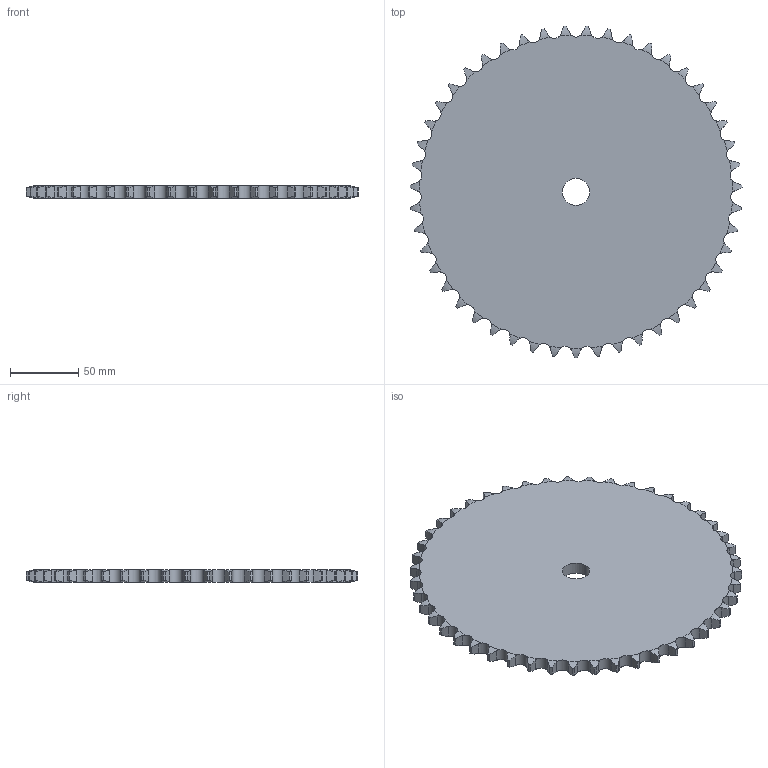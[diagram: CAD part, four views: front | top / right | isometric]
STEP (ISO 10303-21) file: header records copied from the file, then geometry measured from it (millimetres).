
FILE_DESCRIPTION((''),'2;1');
FILE_NAME('500-301-0047_PRT','2021-02-12T',('Brieden'),('Brieden'),'PRO/ENGINEER BY PARAMETRIC TECHNOLOGY CORPORATION, 2010160','PRO/ENGINEER BY PARAMETRIC TECHNOLOGY CORPORATION, 2010160','');
FILE_SCHEMA(('AUTOMOTIVE_DESIGN { 1 0 10303 214 1 1 1 1 }'));
Length unit declared in the file: millimetre
Products named in the file (1): 500-301-0047_PRT
Bounding box: 243.84 x 243.71 x 9.1 mm (x, y, z)
Volume: 386164.6 mm3; surface area: 95358.9 mm2
Topology: 1 solids, 1 shells, 286 faces, 852 edges, 568 vertices
Faces by surface type: cylinder 190, torus 94, plane 2
Entity records: 14099 total; most frequent: CARTESIAN_POINT 4248, ORIENTED_EDGE 1704, DIRECTION 1334, PRESENTATION_STYLE_ASSIGNMENT 853, STYLED_ITEM 853, CURVE_STYLE 852, EDGE_CURVE 852, AXIS2_PLACEMENT_3D 572
